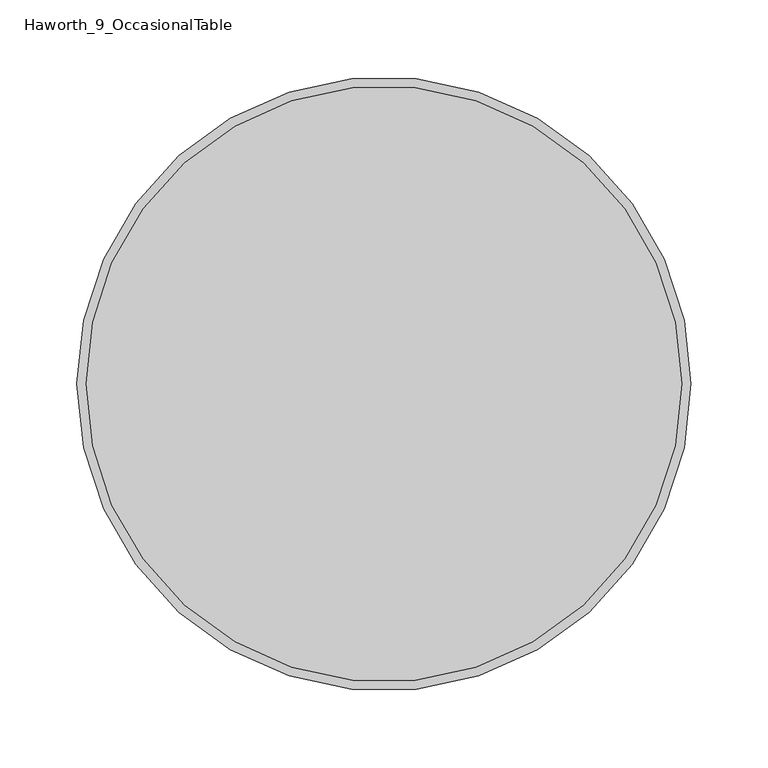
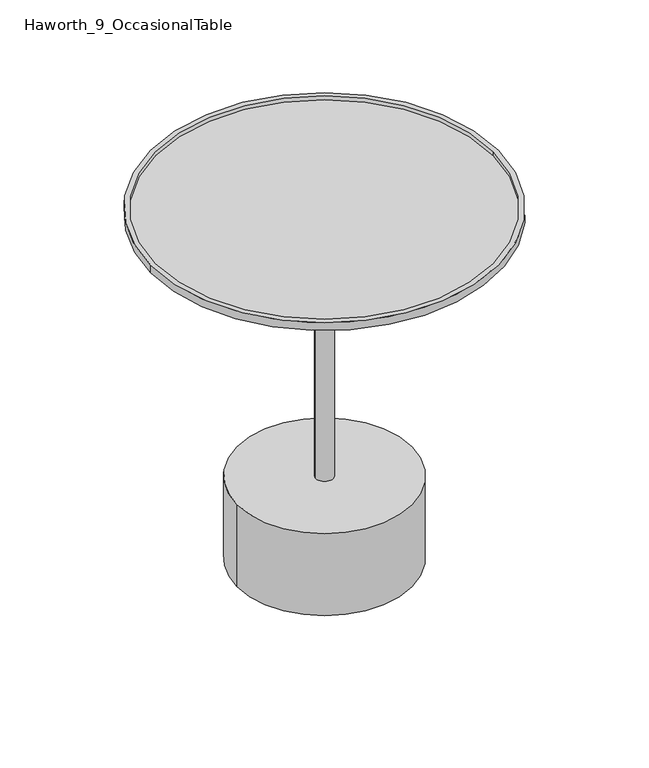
"""IFC4 building model written with IfcOpenShell, lengths in millimetres: furniture geometry, Haworth_9_OccasionalTable : Low Occasional Table -  Stone Top And Base."""

import ifcopenshell
import ifcopenshell.guid

model = None  # the IFC model being written
_history = None  # IfcOwnerHistory: only IFC2X3 demands one
_inside = {}  # id of a spatial element -> (the spatial element, [elements in it])
_under = {}  # id of a project, library or spatial element -> (it, [spatial elements below it])
_declared = {}  # id of a project -> (the project, [libraries it declares])
_typed = {}  # id of a type object -> (the type object, [elements of that type])
_made_of = {}  # id of a material, layer set ... -> (it, [elements and type objects made of it])


def new_model(schema):
    """Start an empty IFC model of exactly this schema.

    Asked for "IFC4X3", IfcOpenShell would pick the latest addendum, in which some entities
    have other attributes; the version numbers below select the first issue.
    IFC2X3 requires an IfcOwnerHistory on every rooted entity: one is made here for all.
    """
    global model, _history
    if schema == "IFC4X3":
        model = ifcopenshell.file(schema_version=(4, 3, 0, 0))
    else:
        model = ifcopenshell.file(schema=schema)
    _inside.clear()
    _under.clear()
    _declared.clear()
    _typed.clear()
    _made_of.clear()
    _history = None
    if model.schema == "IFC2X3":
        org = make("IfcOrganization", Name="unknown")
        user = make(
            "IfcPersonAndOrganization",
            ThePerson=make("IfcPerson", FamilyName="unknown"),
            TheOrganization=org,
        )
        app = make(
            "IfcApplication",
            ApplicationDeveloper=org,
            Version="unknown",
            ApplicationFullName="unknown",
            ApplicationIdentifier="unknown",
        )
        _history = make(
            "IfcOwnerHistory",
            OwningUser=user,
            OwningApplication=app,
            ChangeAction="ADDED",
            CreationDate=0,
        )
    return model


def make(cls, **values):
    """One entity of the class cls with the attributes given. An attribute that is None is left unset."""
    return model.create_entity(
        cls, **{name: value for name, value in values.items() if value is not None}
    )


def rooted(cls, **values):
    """An entity with a GlobalId (a new one), such as an element, a storey or a relation."""
    return make(cls, GlobalId=ifcopenshell.guid.new(), OwnerHistory=_history, **values)


def si_unit(unit_type, name, prefix=None):
    """IfcSIUnit, for example si_unit("LENGTHUNIT", "METRE", prefix="MILLI")."""
    return make("IfcSIUnit", UnitType=unit_type, Prefix=prefix, Name=name)


def assignment(units):
    """IfcUnitAssignment: the units of a project."""
    return None if units is None else make("IfcUnitAssignment", Units=units)


def point(xyz):
    """IfcCartesianPoint."""
    return None if xyz is None else make("IfcCartesianPoint", Coordinates=xyz)


def direction(xyz):
    """IfcDirection."""
    return None if xyz is None else make("IfcDirection", DirectionRatios=xyz)


def frame(location, z_axis=None, x_axis=None):
    """IfcAxis2Placement3D, a coordinate frame: its origin and axes. An axis left out is left unset."""
    return make(
        "IfcAxis2Placement3D",
        Location=point(location),
        Axis=direction(z_axis),
        RefDirection=direction(x_axis),
    )


def frame_2d(location, x_axis=None):
    """IfcAxis2Placement2D, a coordinate frame in the plane: its origin and x axis."""
    return make(
        "IfcAxis2Placement2D", Location=point(location), RefDirection=direction(x_axis)
    )


def origin():
    """The frame at (0, 0, 0) with its axes left unset."""
    return frame((0.0, 0.0, 0.0))


def origin_with_axes():
    """The frame at (0, 0, 0) with the z axis (0, 0, 1) and the x axis (1, 0, 0) written out."""
    return frame((0.0, 0.0, 0.0), z_axis=(0.0, 0.0, 1.0), x_axis=(1.0, 0.0, 0.0))


def place(relative_to, where):
    """IfcLocalPlacement: puts the frame where relative to a parent placement (None: the world)."""
    return make(
        "IfcLocalPlacement", PlacementRelTo=relative_to, RelativePlacement=where
    )


def context(
    kind, dimensions, precision=None, world=None, true_north=None, identifier=None
):
    """IfcGeometricRepresentationContext, for example the 3D "Model" context."""
    return make(
        "IfcGeometricRepresentationContext",
        ContextIdentifier=identifier,
        ContextType=kind,
        CoordinateSpaceDimension=dimensions,
        Precision=precision,
        WorldCoordinateSystem=world,
        TrueNorth=true_north,
    )


def project(units=None, contexts=None):
    """IfcProject with its units and contexts."""
    return rooted(
        "IfcProject",
        Name="project",
        RepresentationContexts=contexts,
        UnitsInContext=assignment(units),
    )


def spatial(cls, under=None, at=None, **own):
    """A site, building, storey or space (cls), placed at a placement, below another one or the project."""
    s = rooted(cls, ObjectPlacement=at, **own)
    if under is not None:
        _under.setdefault(under.id(), (under, []))[1].append(s)
    return s


def polyline(points):
    """IfcPolyline through the points."""
    return make("IfcPolyline", Points=[point(p) for p in points])


def circle_curve(where, radius):
    """IfcCircle in the frame where."""
    return make("IfcCircle", Position=where, Radius=radius)


def ellipse_curve(where, semi_axis1, semi_axis2):
    """IfcEllipse in the frame where."""
    return make(
        "IfcEllipse", Position=where, SemiAxis1=semi_axis1, SemiAxis2=semi_axis2
    )


def trimmed(basis, trim1, trim2, sense, master):
    """IfcTrimmedCurve: the piece of a basis curve between two trims."""
    return make(
        "IfcTrimmedCurve",
        BasisCurve=basis,
        Trim1=trim1,
        Trim2=trim2,
        SenseAgreement=sense,
        MasterRepresentation=master,
    )


def segment(curve, same_sense, transition):
    """IfcCompositeCurveSegment."""
    return make(
        "IfcCompositeCurveSegment",
        Transition=transition,
        SameSense=same_sense,
        ParentCurve=curve,
    )


def composite_curve(segments, self_intersect=None):
    """IfcCompositeCurve: segments joined end to end."""
    return make("IfcCompositeCurve", Segments=segments, SelfIntersect=self_intersect)


def outline(outer, holes=None, kind="AREA"):
    """IfcArbitraryClosedProfileDef: a profile drawn as a closed curve; with holes, ...WithVoids."""
    if holes is None:
        return make("IfcArbitraryClosedProfileDef", ProfileType=kind, OuterCurve=outer)
    return make(
        "IfcArbitraryProfileDefWithVoids",
        ProfileType=kind,
        OuterCurve=outer,
        InnerCurves=holes,
    )


def extrude(swept, where, along, depth):
    """IfcExtrudedAreaSolid: the profile swept, set in the frame where, extruded along a direction by depth."""
    return make(
        "IfcExtrudedAreaSolid",
        SweptArea=swept,
        Position=where,
        ExtrudedDirection=direction(along),
        Depth=depth,
    )


def shape(context_of_items, identifier, shape_type, items):
    """IfcShapeRepresentation: the items that make up one representation, for example the "Body"."""
    return make(
        "IfcShapeRepresentation",
        ContextOfItems=context_of_items,
        RepresentationIdentifier=identifier,
        RepresentationType=shape_type,
        Items=items,
    )


def source(mapping_origin, context_of_items, identifier, shape_type, items):
    """IfcRepresentationMap: a shape defined once, which mapped items show again and again."""
    return make(
        "IfcRepresentationMap",
        MappingOrigin=mapping_origin,
        MappedRepresentation=shape(context_of_items, identifier, shape_type, items),
    )


def transform(
    local_origin,
    x_axis=None,
    y_axis=None,
    z_axis=None,
    scale=None,
    scale2=None,
    scale3=None,
    uniform=True,
):
    """IfcCartesianTransformationOperator3D, or its non-uniform kind. x_axis, y_axis, z_axis: its Axis1, 2, 3."""
    if uniform:
        return make(
            "IfcCartesianTransformationOperator3D",
            Axis1=direction(x_axis),
            Axis2=direction(y_axis),
            LocalOrigin=point(local_origin),
            Scale=scale,
            Axis3=direction(z_axis),
        )
    return make(
        "IfcCartesianTransformationOperator3DnonUniform",
        Axis1=direction(x_axis),
        Axis2=direction(y_axis),
        LocalOrigin=point(local_origin),
        Scale=scale,
        Axis3=direction(z_axis),
        Scale2=scale2,
        Scale3=scale3,
    )


def mapped(mapping_source, mapping_target):
    """IfcMappedItem: shows the shape of a source again, moved by a transform."""
    return make(
        "IfcMappedItem", MappingSource=mapping_source, MappingTarget=mapping_target
    )


def made_of(thing, what):
    """Note that an element or type object is made of a material, layer set ...; save() writes the relation."""
    if what is not None:
        _made_of.setdefault(what.id(), (what, []))[1].append(thing)
    return thing


def element(
    cls,
    number,
    at=None,
    inside=None,
    cuts=None,
    type_object=None,
    material=None,
    context=None,
    identifier="Body",
    shape_type=None,
    held_by="IfcProductDefinitionShape",
    body=None,
    shapes=None,
    **own,
):
    """One element of the class cls, such as IfcWall. Its Tag is "e" and its number.

    at: its placement. inside: the storey or other place that contains it. cuts: it is an
    opening in that element (IfcRelVoidsElement). A single representation is given by context,
    identifier, shape_type and body (its items); several are given by shapes. held_by: the class
    of the entity that holds the representations. save() writes the other relations.
    """
    e = rooted(cls, Tag="e%d" % number, ObjectPlacement=at, **own)
    if body is not None:
        shapes = [shape(context, identifier, shape_type, body)]
    if shapes is not None:
        e.Representation = make(held_by, Representations=shapes)
    if inside is not None:
        _inside.setdefault(inside.id(), (inside, []))[1].append(e)
    if cuts is not None:
        rooted(
            "IfcRelVoidsElement", RelatingBuildingElement=cuts, RelatedOpeningElement=e
        )
    if type_object is not None:
        _typed.setdefault(type_object.id(), (type_object, []))[1].append(e)
    return made_of(e, material)


def aggregate(whole, parts):
    """IfcRelAggregates: a whole, such as a stair, and the parts it consists of."""
    return rooted("IfcRelAggregates", RelatingObject=whole, RelatedObjects=parts)


def save(model, path):
    """Write the relations noted so far, then the file.

    IfcRelAggregates (storeys below a building ...), IfcRelContainedInSpatialStructure (elements
    in a storey), IfcRelDefinesByType, IfcRelAssociatesMaterial and IfcRelDeclares: one each for
    every whole, place, type object, material and project.
    """
    for whole, parts in _under.values():
        aggregate(whole, parts)
    for where, things in _inside.values():
        rooted(
            "IfcRelContainedInSpatialStructure",
            RelatedElements=things,
            RelatingStructure=where,
        )
    for kind, things in _typed.values():
        rooted("IfcRelDefinesByType", RelatedObjects=things, RelatingType=kind)
    for what, things in _made_of.values():
        rooted("IfcRelAssociatesMaterial", RelatedObjects=things, RelatingMaterial=what)
    for by, libraries in _declared.values():
        rooted("IfcRelDeclares", RelatingContext=by, RelatedDefinitions=libraries)
    model.write(path)


def plane_surface(at):
    """IfcPlane: the flat surface through the origin of the frame at, square to its z axis."""
    return make("IfcPlane", Position=at)


def cylinder_surface(at, radius):
    """IfcCylindricalSurface: all points at the distance radius from the z axis of the frame at."""
    return make("IfcCylindricalSurface", Position=at, Radius=radius)


def revolved_surface(curve, axis_point, axis_direction):
    """IfcSurfaceOfRevolution: the curve turned about the line through axis_point along axis_direction."""
    return make(
        "IfcSurfaceOfRevolution",
        SweptCurve=make("IfcArbitraryOpenProfileDef", ProfileType="CURVE", Curve=curve),
        AxisPosition=make("IfcAxis1Placement", Location=point(axis_point), Axis=direction(axis_direction)),
    )


def advanced_brep(points, edges, surfaces, faces):
    """IfcAdvancedBrep: a solid bounded by faces that lie on surfaces and meet in shared edges.

    An edge is (start, end): straight between two places in points (the first is 0);
    or (start, end, curve); or (start, end, curve, False) where it runs against its curve.
    A face is (place in surfaces, loops), or (place, loops, False) where it looks against
    its surface's normal. A loop lists edges by number (the first is 1), with a minus sign
    where the edge is run from its end to its start. The first loop is the outer one.
    """
    corners = [point(p) for p in points]
    vertices = [make("IfcVertexPoint", VertexGeometry=c) for c in corners]
    made = []
    for start, end, *more in edges:
        made.append(
            make(
                "IfcEdgeCurve",
                EdgeStart=vertices[start],
                EdgeEnd=vertices[end],
                EdgeGeometry=more[0] if more else make("IfcPolyline", Points=[corners[start], corners[end]]),
                SameSense=more[1] if len(more) > 1 else True,
            )
        )
    hull = []
    for where, loops, *sense in faces:
        bounds = []
        for j, loop in enumerate(loops):
            ring = [make("IfcOrientedEdge", EdgeElement=made[abs(k) - 1], Orientation=k > 0) for k in loop]
            bounds.append(
                make(
                    "IfcFaceOuterBound" if j == 0 else "IfcFaceBound",
                    Bound=make("IfcEdgeLoop", EdgeList=ring),
                    Orientation=True,
                )
            )
        hull.append(make("IfcAdvancedFace", Bounds=bounds, FaceSurface=surfaces[where], SameSense=sense[0] if sense else True))
    return make("IfcAdvancedBrep", Outer=make("IfcClosedShell", CfsFaces=hull))


def haworth_9_occasionaltable_6362c3d7(model_context):
    return source(origin(), model_context, "Body", "SolidModel", [
        advanced_brep(
        [(-311.4894208, -292.1, 407.4252728), (0.5988445, -292.1, 407.4252728), (43.9447118, -292.1, 418.1411912), (-354.8352882, -292.1, 418.1411912), (37.9917249, -292.1, 422.8110299), (-348.8823012, -292.1, 422.8110299), (-354.8352882, -292.1, 427.4441817), (43.9447118, -292.1, 427.4441817), (-348.8823012, -292.1, 427.4441817), (37.9917249, -292.1, 427.4441817)],
        [
            (0, 1, circle_curve(frame((-155.4452882, -292.1, 407.4252728), z_axis=(0.0, 0.0, -1.0), x_axis=(1.0, 0.0, 0.0)), 156.0441327)),
            (1, 0, circle_curve(frame((-155.4452882, -292.1, 407.4252728), z_axis=(0.0, 0.0, -1.0), x_axis=(-1.0, 0.0, 0.0)), 156.0441327)),
            (1, 2),
            (2, 3, circle_curve(frame((-155.4452882, -292.1, 418.1411912), z_axis=(0.0, 0.0, -1.0), x_axis=(-1.0, 0.0, 0.0)), 199.39)),
            (3, 0),
            (3, 2, circle_curve(frame((-155.4452882, -292.1, 418.1411912), z_axis=(0.0, 0.0, -1.0), x_axis=(1.0, 0.0, 0.0)), 199.39)),
            (4, 5, circle_curve(frame((-155.4452882, -292.1, 422.8110299), z_axis=(0.0, 0.0, 1.0), x_axis=(1.0, 0.0, 0.0)), 193.437013)),
            (5, 4, circle_curve(frame((-155.4452882, -292.1, 422.8110299), z_axis=(0.0, 0.0, 1.0), x_axis=(1.0, 0.0, 0.0)), 193.437013)),
            (6, 7, circle_curve(frame((-155.4452882, -292.1, 427.4441817), z_axis=(0.0, 0.0, 1.0), x_axis=(1.0, 0.0, 0.0)), 199.39)),
            (7, 6, circle_curve(frame((-155.4452882, -292.1, 427.4441817), z_axis=(0.0, 0.0, 1.0), x_axis=(1.0, 0.0, 0.0)), 199.39)),
            (8, 9, circle_curve(frame((-155.4452882, -292.1, 427.4441817), z_axis=(0.0, 0.0, -1.0), x_axis=(1.0, 0.0, 0.0)), 193.437013)),
            (9, 8, circle_curve(frame((-155.4452882, -292.1, 427.4441817), z_axis=(0.0, 0.0, -1.0), x_axis=(1.0, 0.0, 0.0)), 193.437013)),
            (6, 3),
            (2, 7),
            (8, 5),
            (4, 9),
        ],
        [
            plane_surface(frame((-155.4452882, -292.1, 407.4252728), z_axis=(0.0, 0.0, -1.0), x_axis=(0.0, -1.0, 0.0))),
            revolved_surface(polyline([(0.5988444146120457, -292.1, 407.4252728), (43.94471179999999, -292.1, 418.1411912)]), (-155.4452882, -292.1, 368.8482113), (0.0, 0.0, 1.0)),
            revolved_surface(polyline([(-311.489420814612, -292.1, 407.4252728), (-354.8352882, -292.1, 418.1411912)]), (-155.4452882, -292.1, 368.8482113), (0.0, 0.0, 1.0)),
            plane_surface(frame((37.9917249, -292.1, 422.8110299), z_axis=(0.0, 0.0, 1.0), x_axis=(0.0, 1.0, 0.0))),
            plane_surface(frame((43.9447118, -292.1, 427.4441817), z_axis=(0.0, 0.0, 1.0), x_axis=(0.0, 1.0, 0.0))),
            cylinder_surface(frame((-155.4452882, -292.1, 418.1411912), z_axis=(0.0, 0.0, 1.0), x_axis=(1.0, 0.0, 0.0)), 199.39),
            revolved_surface(polyline([(37.991724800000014, -292.1, 422.8110299), (37.991724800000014, -292.1, 427.4441817)]), (-155.4452882, -292.1, 0.0), (0.0, 0.0, -1.0)),
        ],
        [
            (0, [[1, 2]]),
            (1, [[-2, 3, 4, 5]]),
            (2, [[-1, -5, 6, -3]]),
            (3, [[7, 8]]),
            (4, [[9, 10], [11, 12]]),
            (5, [[-9, 13, -4, 14]]),
            (5, [[-10, -14, -6, -13]]),
            (6, [[-11, 15, -7, 16]]),
            (6, [[-12, -16, -8, -15]]),
        ],
    ),
        advanced_brep(
        [(-284.8188626, -292.1027186, 407.4252728), (-26.0717137, -292.1027186, 407.4252728), (-155.4452882, -292.1027186, 407.4252728), (-284.5696781, -292.1027186, 402.7091674), (-26.3208982, -292.1027186, 402.7091674), (-281.0894483, -292.1027186, 399.2065109), (-29.801128, -292.1027186, 399.2065109), (-165.4613858, -292.1027186, 392.3520286), (-145.4291905, -292.1027186, 392.3520286), (-155.4452882, -292.1027186, 392.3520286)],
        [
            (0, 1, circle_curve(frame((-155.4452882, -292.1027186, 407.4252728), z_axis=(0.0, 0.0, 1.0), x_axis=(1.0, 0.0, 0.0)), 129.3735745)),
            (1, 2),
            (2, 0),
            (1, 0, circle_curve(frame((-155.4452882, -292.1027186, 407.4252728), z_axis=(0.0, 0.0, 1.0), x_axis=(1.0, 0.0, 0.0)), 129.3735745)),
            (3, 4, circle_curve(frame((-155.4452882, -292.1027186, 402.7091674), z_axis=(0.0, 0.0, 1.0), x_axis=(1.0, 0.0, 0.0)), 129.12439)),
            (4, 1),
            (0, 3),
            (4, 3, circle_curve(frame((-155.4452882, -292.1027186, 402.7091674), z_axis=(0.0, 0.0, 1.0), x_axis=(1.0, 0.0, 0.0)), 129.12439)),
            (5, 6, circle_curve(frame((-155.4452882, -292.1027186, 399.2065109), z_axis=(0.0, 0.0, 1.0), x_axis=(1.0, 0.0, 0.0)), 125.6441602)),
            (6, 4, circle_curve(frame((-30.0203544, -292.1027186, 402.9046353), z_axis=(0.0, -1.0, 0.0), x_axis=(-1.0, 0.0, 0.0)), 3.7046166)),
            (3, 5, circle_curve(frame((-280.8702219, -292.1027186, 402.9046353), z_axis=(0.0, -1.0, 0.0), x_axis=(1.0, 0.0, 0.0)), 3.7046166)),
            (6, 5, circle_curve(frame((-155.4452882, -292.1027186, 399.2065109), z_axis=(0.0, 0.0, 1.0), x_axis=(1.0, 0.0, 0.0)), 125.6441602)),
            (7, 8, circle_curve(frame((-155.4452882, -292.1027186, 392.3520286), z_axis=(0.0, 0.0, 1.0), x_axis=(1.0, 0.0, 0.0)), 10.0160977)),
            (8, 6),
            (5, 7),
            (8, 7, circle_curve(frame((-155.4452882, -292.1027186, 392.3520286), z_axis=(0.0, 0.0, 1.0), x_axis=(1.0, 0.0, 0.0)), 10.0160977)),
            (9, 8),
            (7, 9),
        ],
        [
            plane_surface(frame((-155.4452882, -292.1027186, 407.4252728), z_axis=(0.0, 0.0, 1.0), x_axis=(1.0, 0.0, 0.0))),
            revolved_surface(polyline([(-26.0717137, -292.1027186, 407.4252728), (-26.3208982, -292.1027186, 402.7091674)]), (-155.4452882, -292.1027186, 407.4252728), (0.0, 0.0, -1.0)),
            revolved_surface(trimmed(ellipse_curve(frame((-30.0203544, -292.1027186, 402.9046353), z_axis=(0.0, 1.0, 0.0), x_axis=(-1.0, 0.0, 0.0)), 3.7046166, 3.7046166), [point((-26.3208982, -292.1027186, 402.7091674))], [point((-29.801128, -292.1027186, 399.2065109))], True, "CARTESIAN"), (-155.4452882, -292.1027186, 407.4252728), (0.0, 0.0, -1.0)),
            revolved_surface(polyline([(-29.801128, -292.1027186, 399.2065109), (-145.4291905, -292.1027186, 392.3520286)]), (-155.4452882, -292.1027186, 407.4252728), (0.0, 0.0, -1.0)),
            plane_surface(frame((-155.4452882, -292.1027186, 392.3520286), z_axis=(0.0, 0.0, -1.0), x_axis=(1.0, 0.0, 0.0))),
        ],
        [
            (0, [[1, 2, 3]]),
            (0, [[4, -3, -2]]),
            (1, [[5, 6, -1, 7]]),
            (1, [[8, -7, -4, -6]]),
            (2, [[9, 10, -5, 11]]),
            (2, [[12, -11, -8, -10]]),
            (3, [[13, 14, -9, 15]]),
            (3, [[16, -15, -12, -14]]),
            (4, [[17, -13, 18]]),
            (4, [[-18, -16, -17]]),
        ],
    ),
        extrude(outline(composite_curve([segment(trimmed(circle_curve(frame_2d((-155.4452882, -292.1)), 10.0160977), [point((-165.4613858, -292.1))], [point((-145.4291905, -292.1))], False, "CARTESIAN"), True, "CONTINUOUS"), segment(trimmed(circle_curve(frame_2d((-155.4452882, -292.1)), 10.0160977), [point((-145.4291905, -292.1))], [point((-165.4613858, -292.1))], False, "CARTESIAN"), True, "CONTINUOUS")], self_intersect=False)), frame((0.0, 0.0, 102.5745621), z_axis=(0.0, 0.0, 1.0), x_axis=(1.0, 0.0, 0.0)), (0.0, 0.0, 1.0), 289.7774665),
        extrude(outline(composite_curve([segment(trimmed(circle_curve(frame_2d((-155.4452882, -292.1)), 95.0996992), [point((-250.5449874, -292.1))], [point((-60.3455889, -292.1))], False, "CARTESIAN"), True, "CONTINUOUS"), segment(trimmed(circle_curve(frame_2d((-155.4452882, -292.1)), 95.0996992), [point((-60.3455889, -292.1))], [point((-250.5449874, -292.1))], False, "CARTESIAN"), True, "CONTINUOUS")], self_intersect=False)), origin_with_axes(), (0.0, 0.0, 1.0), 3.0065621),
        extrude(outline(composite_curve([segment(trimmed(circle_curve(frame_2d((-155.4452882, -292.1)), 100.2289836), [point((-255.6742718, -292.1))], [point((-55.2163045, -292.1))], False, "CARTESIAN"), True, "CONTINUOUS"), segment(trimmed(circle_curve(frame_2d((-155.4452882, -292.1)), 100.2289836), [point((-55.2163045, -292.1))], [point((-255.6742718, -292.1))], False, "CARTESIAN"), True, "CONTINUOUS")], self_intersect=False)), frame((0.0, 0.0, 3.0065621), z_axis=(0.0, 0.0, 1.0), x_axis=(1.0, 0.0, 0.0)), (0.0, 0.0, 1.0), 99.568),
    ])


if __name__ == "__main__":
    model = new_model("IFC4")
    model_context = context("Model", 3, world=origin())
    ifc_project = project(units=[si_unit("LENGTHUNIT", "METRE", prefix="MILLI")], contexts=[model_context])
    site = spatial("IfcSite", under=ifc_project)
    building = spatial("IfcBuilding", under=site)
    placement = place(None, origin())
    haworth_9_occasionaltable_shape = haworth_9_occasionaltable_6362c3d7(model_context)
    element("IfcFurniture", 1, ObjectType="Haworth_9_OccasionalTable : Low Occasional Table -  Stone Top And Base", at=placement, inside=building, context=model_context, shape_type="MappedRepresentation", body=[
        mapped(haworth_9_occasionaltable_shape, transform((0.0, 0.0, 0.0), x_axis=(1.0, 0.0, 0.0), y_axis=(0.0, 1.0, 0.0), z_axis=(0.0, 0.0, 1.0))),
    ])
    save(model, "model.ifc")
